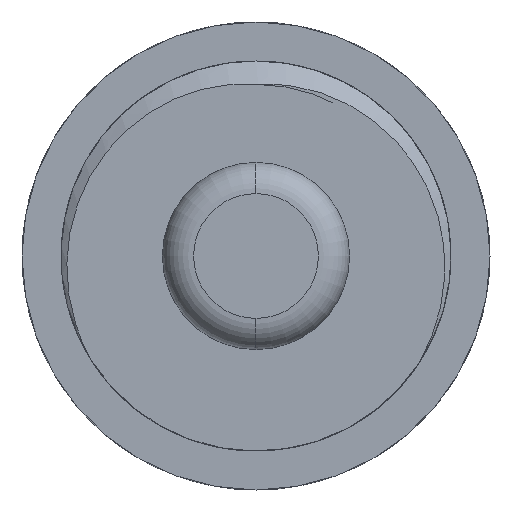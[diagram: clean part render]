
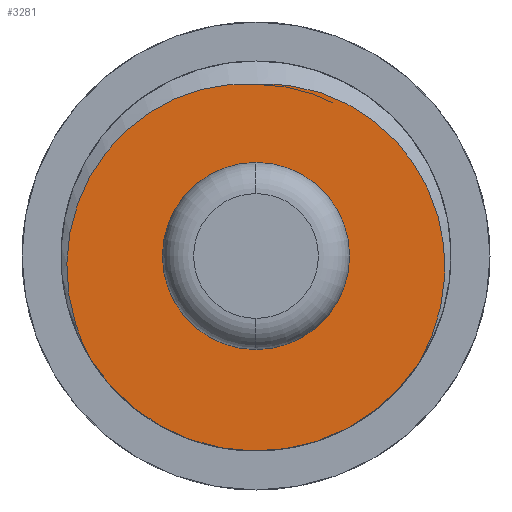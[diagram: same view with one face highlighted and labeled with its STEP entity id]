
A CAD part, left-side view. The second image highlights one B-rep face of the part: STEP entity #3281.
In plain terms, the highlighted planar face has unit normal (-1, 0, 0).
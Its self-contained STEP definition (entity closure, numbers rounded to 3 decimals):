
#1145=CARTESIAN_POINT('',(-4.4,0.,0.));
#1146=DIRECTION('',(-1.,0.,0.));
#1147=DIRECTION('',(0.,0.848,-0.53));
#1148=AXIS2_PLACEMENT_3D('',#1145,#1146,#1147);
#1336=CARTESIAN_POINT('',(-4.4,-0.014,
1.1));
#1337=CARTESIAN_POINT('',(-4.4,0.048,
1.105));
#1338=CARTESIAN_POINT('',(-4.4,0.171,
1.104));
#1339=CARTESIAN_POINT('',(-4.4,0.359,
1.07));
#1340=CARTESIAN_POINT('',(-4.4,0.537,
1.006));
#1341=CARTESIAN_POINT('',(-4.4,0.704,
0.912));
#1342=CARTESIAN_POINT('',(-4.4,0.854,
0.791));
#1343=CARTESIAN_POINT('',(-4.4,0.983,
0.645));
#1344=CARTESIAN_POINT('',(-4.4,1.087,
0.478));
#1345=CARTESIAN_POINT('',(-4.4,1.161,
0.297));
#1346=CARTESIAN_POINT('',(-4.4,1.206,
0.103));
#1347=CARTESIAN_POINT('',(-4.4,1.218,
-0.099));
#1348=CARTESIAN_POINT('',(-4.4,1.196,
-0.305));
#1349=CARTESIAN_POINT('',(-4.4,1.141,
-0.497));
#1350=CARTESIAN_POINT('',(-4.4,1.089,
-0.609));
#1351=CARTESIAN_POINT('',(-4.4,1.06,
-0.662));
#1353=CARTESIAN_POINT('',(-4.4,-1.043,
-0.689));
#1354=CARTESIAN_POINT('',(-4.4,-1.073,
-0.637));
#1355=CARTESIAN_POINT('',(-4.4,-1.126,
-0.529));
#1356=CARTESIAN_POINT('',(-4.4,-1.182,
-0.356));
#1357=CARTESIAN_POINT('',(-4.4,-1.212,
-0.171));
#1358=CARTESIAN_POINT('',(-4.4,-1.213,
0.017));
#1359=CARTESIAN_POINT('',(-4.4,-1.185,
0.2));
#1360=CARTESIAN_POINT('',(-4.4,-1.131,
0.375));
#1361=CARTESIAN_POINT('',(-4.4,-1.051,
0.538));
#1362=CARTESIAN_POINT('',(-4.4,-0.947,
0.686));
#1363=CARTESIAN_POINT('',(-4.4,-0.822,
0.817));
#1364=CARTESIAN_POINT('',(-4.4,-0.681,
0.924));
#1365=CARTESIAN_POINT('',(-4.4,-0.524,
1.009));
#1366=CARTESIAN_POINT('',(-4.4,-0.359,
1.068));
#1367=CARTESIAN_POINT('',(-4.4,-0.187,
1.1));
#1368=CARTESIAN_POINT('',(-4.4,-0.072,
1.103));
#1369=CARTESIAN_POINT('',(-4.4,-0.014,
1.1));
#1371=CARTESIAN_POINT('',(-4.4,0.,0.));
#1372=DIRECTION('',(-1.,0.,0.));
#1373=DIRECTION('',(0.,0.,-1.));
#1374=AXIS2_PLACEMENT_3D('',#1371,#1372,#1373);
#1380=CARTESIAN_POINT('',(-4.4,0.,0.));
#1381=DIRECTION('',(1.,0.,0.));
#1382=DIRECTION('',(0.,0.,-1.));
#1383=AXIS2_PLACEMENT_3D('',#1380,#1381,#1382);
#1532=CARTESIAN_POINT('',(-4.4,0.,-0.6));
#1534=VERTEX_POINT('',#1532);
#1542=CARTESIAN_POINT('',(-4.4,0.,0.6));
#1544=VERTEX_POINT('',#1542);
#1620=CARTESIAN_POINT('',(-4.4,1.06,
-0.662));
#1621=CARTESIAN_POINT('',(-4.4,-1.043,
-0.689));
#1622=VERTEX_POINT('',#1620);
#1623=VERTEX_POINT('',#1621);
#1633=VERTEX_POINT('',#1336);
#3264=CARTESIAN_POINT('',(-4.4,0.,0.));
#3265=DIRECTION('',(-1.,0.,0.));
#3266=DIRECTION('',(0.,0.,-1.));
#3267=AXIS2_PLACEMENT_3D('',#3264,#3265,#3266);
#3268=PLANE('',#3267);
#3269=ORIENTED_EDGE('',*,*,#2531,.F.);
#3271=ORIENTED_EDGE('',*,*,#3270,.F.);
#3272=ORIENTED_EDGE('',*,*,#3252,.F.);
#3273=EDGE_LOOP('',(#3269,#3271,#3272));
#3274=FACE_OUTER_BOUND('',#3273,.F.);
#3276=ORIENTED_EDGE('',*,*,#3275,.T.);
#3278=ORIENTED_EDGE('',*,*,#3277,.F.);
#3279=EDGE_LOOP('',(#3276,#3278));
#3280=FACE_BOUND('',#3279,.F.);
#3281=ADVANCED_FACE('',(#3274,#3280),#3268,.T.);
#1149=CIRCLE('',#1148,1.25);
#1352=B_SPLINE_CURVE_WITH_KNOTS('',3,(#1336,#1337,#1338,#1339,#1340,#1341,#1342,
#1343,#1344,#1345,#1346,#1347,#1348,#1349,#1350,#1351),.UNSPECIFIED.,.F.,.F.,(4,
1,1,1,1,1,1,1,1,1,1,1,1,4),(0.,0.077,0.154,
0.231,0.308,0.385,0.462,
0.538,0.615,0.692,0.769,
0.846,0.923,1.),.UNSPECIFIED.);
#1370=B_SPLINE_CURVE_WITH_KNOTS('',3,(#1353,#1354,#1355,#1356,#1357,#1358,#1359,
#1360,#1361,#1362,#1363,#1364,#1365,#1366,#1367,#1368,#1369),.UNSPECIFIED.,.F.,
.F.,(4,1,1,1,1,1,1,1,1,1,1,1,1,1,4),(0.,0.071,0.143,
0.214,0.286,0.357,0.429,0.5,
0.571,0.643,0.714,0.786,
0.857,0.929,1.),.UNSPECIFIED.);
#1375=CIRCLE('',#1374,0.6);
#1384=CIRCLE('',#1383,0.6);
#2531=EDGE_CURVE('',#1622,#1623,#1149,.T.);
#3252=EDGE_CURVE('',#1623,#1633,#1370,.T.);
#3270=EDGE_CURVE('',#1633,#1622,#1352,.T.);
#3275=EDGE_CURVE('',#1534,#1544,#1375,.T.);
#3277=EDGE_CURVE('',#1534,#1544,#1384,.T.);
